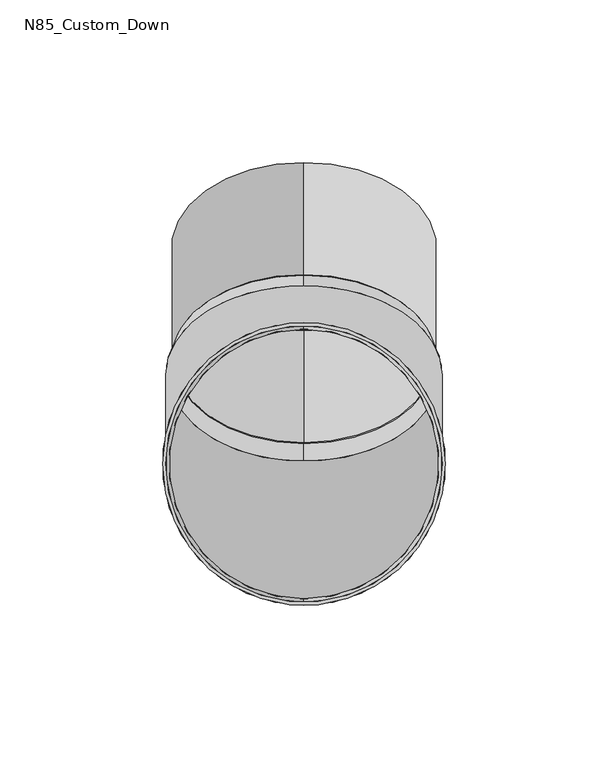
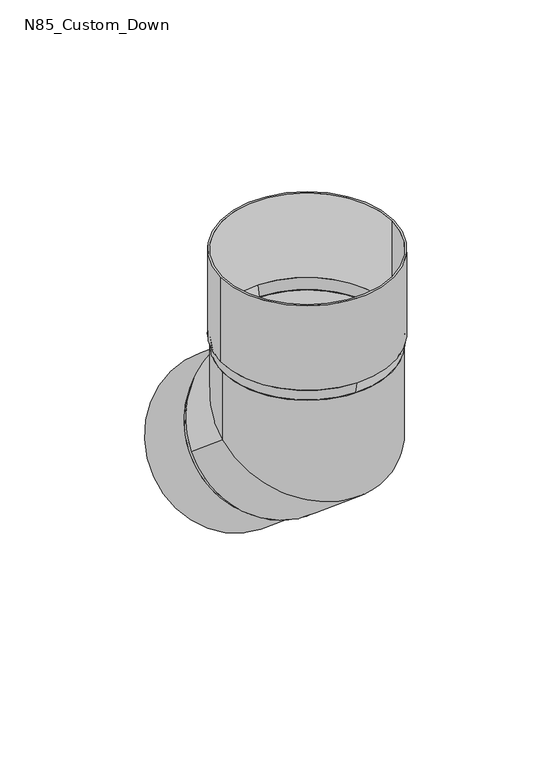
"""IFC4 building model written with IfcOpenShell, lengths in millimetres: proxy geometry, GROVIK_Downpipe_Knee : N85_Custom_Down."""

from ifc_helpers import new_model, si_unit, point, frame, origin, origin_with_axes, origin_2d, place, context, project, spatial, polyline, circle_curve, ellipse_curve, trimmed, segment, composite_curve, outline, extrude, source, transform, mapped, element, save
from ifc_brep_helpers import plane_surface, cylinder_surface, revolved_surface, advanced_brep


def n85_custom_down_757c828a(model_context):
    return source(origin(), model_context, "Body", "SolidModel", [
        extrude(outline(composite_curve([segment(trimmed(circle_curve(origin_2d(), 43.5), [point((-43.5, 0.0))], [point((43.5, 0.0))], False, "CARTESIAN"), True, "CONTINUOUS"), segment(trimmed(circle_curve(origin_2d(), 43.5), [point((43.5, 0.0))], [point((-43.5, 0.0))], False, "CARTESIAN"), True, "CONTINUOUS")], self_intersect=False), holes=[composite_curve([segment(trimmed(circle_curve(origin_2d(), 42.5), [point((-42.5, 0.0))], [point((42.5, 0.0))], True, "CARTESIAN"), True, "CONTINUOUS"), segment(trimmed(circle_curve(origin_2d(), 42.5), [point((42.5, 0.0))], [point((-42.5, 0.0))], True, "CARTESIAN"), True, "CONTINUOUS")], self_intersect=False)]), frame((0.0, 0.0, 6.0), z_axis=(0.0, 0.0, 1.0), x_axis=(1.0, 0.0, 0.0)), (0.0, 0.0, 1.0), 45.0),
        advanced_brep(
        [(-42.5, 0.0, 0.0), (42.5, 0.0, 0.0), (-41.5, 0.0, 0.0), (41.5, 0.0, 0.0), (-41.5, 0.0, -35.9), (41.5, 0.0, -35.9), (-42.5, 0.0, -35.9), (42.5, 0.0, -35.9), (-42.5, 27.5009955, -58.9760752), (42.5, 27.5009955, -58.9760752), (-41.5, 27.5009955, -58.9760752), (41.5, 27.5009955, -58.9760752)],
        [
            (0, 1, circle_curve(origin_with_axes(), 42.5)),
            (1, 0, circle_curve(origin_with_axes(), 42.5)),
            (2, 3, circle_curve(frame((0.0, 0.0, 0.0), z_axis=(0.0, 0.0, -1.0), x_axis=(1.0, 0.0, 0.0)), 41.5)),
            (3, 2, circle_curve(frame((0.0, 0.0, 0.0), z_axis=(0.0, 0.0, -1.0), x_axis=(1.0, 0.0, 0.0)), 41.5)),
            (2, 4),
            (4, 5, ellipse_curve(frame((0.0, 0.0, -35.9), z_axis=(0.0, 0.42261826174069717, -0.906307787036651), x_axis=(0.0, -0.906307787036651, -0.42261826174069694)), 45.7901836, 41.5)),
            (5, 3),
            (5, 4, ellipse_curve(frame((0.0, 0.0, -35.9), z_axis=(0.0, 0.42261826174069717, -0.906307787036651), x_axis=(0.0, -0.906307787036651, -0.42261826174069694)), 45.7901836, 41.5)),
            (0, 6),
            (6, 7, ellipse_curve(frame((0.0, 0.0, -35.9), z_axis=(0.0, -0.42261826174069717, 0.906307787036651), x_axis=(0.0, 0.906307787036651, 0.42261826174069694)), 46.8935616, 42.5)),
            (7, 1),
            (7, 6, ellipse_curve(frame((0.0, 0.0, -35.9), z_axis=(0.0, -0.42261826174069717, 0.906307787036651), x_axis=(0.0, 0.906307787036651, 0.42261826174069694)), 46.8935616, 42.5)),
            (8, 9, circle_curve(frame((0.0, 27.5009955, -58.9760752), z_axis=(0.0, 0.7660444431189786, -0.6427876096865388), x_axis=(1.0, 0.0, 0.0)), 42.5)),
            (9, 8, circle_curve(frame((0.0, 27.5009955, -58.9760752), z_axis=(0.0, 0.7660444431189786, -0.6427876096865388), x_axis=(1.0, 0.0, 0.0)), 42.5)),
            (10, 11, circle_curve(frame((0.0, 27.5009955, -58.9760752), z_axis=(0.0, -0.7660444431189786, 0.6427876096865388), x_axis=(1.0, 0.0, 0.0)), 41.5)),
            (11, 10, circle_curve(frame((0.0, 27.5009955, -58.9760752), z_axis=(0.0, -0.7660444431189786, 0.6427876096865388), x_axis=(1.0, 0.0, 0.0)), 41.5)),
            (4, 10),
            (11, 5),
            (6, 8),
            (9, 7),
        ],
        [
            plane_surface(origin_with_axes()),
            revolved_surface(polyline([(41.5, 0.0, -55.25176779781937), (41.5, 0.0, 0.0)]), (0.0, 0.0, 0.0), (0.0, 0.0, -1.0)),
            cylinder_surface(origin_with_axes(), 42.5),
            plane_surface(frame((0.0, 27.5009955, -58.9760752), z_axis=(0.0, 0.7660444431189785, -0.6427876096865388), x_axis=(1.0, 0.0, 0.0))),
            revolved_surface(polyline([(41.5, 27.50099550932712, -58.97607518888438), (41.5, -14.824314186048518, -23.460923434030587)]), (0.0, 0.0, -35.9), (0.0, 0.7660444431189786, -0.6427876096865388)),
            cylinder_surface(frame((0.0, 0.0, -35.9), z_axis=(0.0, -0.7660444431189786, 0.6427876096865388), x_axis=(1.0, 0.0, 0.0)), 42.5),
        ],
        [
            (0, [[1, 2], [3, 4]]),
            (1, [[-3, 5, 6, 7]]),
            (1, [[-4, -7, 8, -5]]),
            (2, [[-1, 9, 10, 11]]),
            (2, [[-2, -11, 12, -9]]),
            (3, [[13, 14], [15, 16]]),
            (4, [[-6, 17, -16, 18]]),
            (4, [[-8, -18, -15, -17]]),
            (5, [[-10, 19, -14, 20]]),
            (5, [[-12, -20, -13, -19]]),
        ],
    ),
        extrude(outline(composite_curve([segment(trimmed(circle_curve(origin_2d(), 40.7), [point((0.0, 40.7))], [point((0.0, -40.7))], False, "CARTESIAN"), True, "CONTINUOUS"), segment(trimmed(circle_curve(origin_2d(), 40.7), [point((0.0, -40.7))], [point((0.0, 40.7))], False, "CARTESIAN"), True, "CONTINUOUS")], self_intersect=False), holes=[composite_curve([segment(trimmed(circle_curve(origin_2d(), 39.7), [point((0.0, 39.7))], [point((0.0, -39.7))], True, "CARTESIAN"), True, "CONTINUOUS"), segment(trimmed(circle_curve(origin_2d(), 39.7), [point((0.0, -39.7))], [point((0.0, 39.7))], True, "CARTESIAN"), True, "CONTINUOUS")], self_intersect=False)]), frame((0.0, 66.5692621, -91.7582433), z_axis=(0.0, -0.7660444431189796, 0.6427876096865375), x_axis=(1.0, 0.0, 0.0)), (0.0, 0.0, 1.0), 45.0),
        advanced_brep(
        [(0.0, 43.5, 6.0), (0.0, -43.5, 6.0), (0.0, 42.5, 6.0), (0.0, -42.5, 6.0), (0.0, 42.5, 0.0), (0.0, -42.5, 0.0), (0.0, -41.5, 0.0), (0.0, 41.5, 0.0)],
        [
            (0, 1, circle_curve(frame((0.0, 0.0, 6.0), z_axis=(0.0, 0.0, 1.0), x_axis=(0.0, 1.0, 0.0)), 43.5)),
            (1, 0, circle_curve(frame((0.0, 0.0, 6.0), z_axis=(0.0, 0.0, 1.0), x_axis=(0.0, -1.0, 0.0)), 43.5)),
            (2, 3, circle_curve(frame((0.0, 0.0, 6.0), z_axis=(0.0, 0.0, -1.0), x_axis=(0.0, -1.0, 0.0)), 42.5)),
            (3, 2, circle_curve(frame((0.0, 0.0, 6.0), z_axis=(0.0, 0.0, -1.0), x_axis=(0.0, 1.0, 0.0)), 42.5)),
            (4, 5, circle_curve(frame((0.0, 0.0, 0.0), z_axis=(0.0, 0.0, -1.0), x_axis=(0.0, -1.0, 0.0)), 42.5)),
            (5, 4, circle_curve(frame((0.0, 0.0, 0.0), z_axis=(0.0, 0.0, -1.0), x_axis=(0.0, 1.0, 0.0)), 42.5)),
            (6, 7, circle_curve(frame((0.0, 0.0, 0.0), z_axis=(0.0, 0.0, 1.0), x_axis=(0.0, -1.0, 0.0)), 41.5)),
            (7, 6, circle_curve(frame((0.0, 0.0, 0.0), z_axis=(0.0, 0.0, 1.0), x_axis=(0.0, 1.0, 0.0)), 41.5)),
            (1, 5),
            (4, 0),
            (6, 3),
            (2, 7),
        ],
        [
            plane_surface(frame((0.0, 0.0, 6.0), z_axis=(0.0, 0.0, 1.0), x_axis=(-1.0, 0.0, 0.0))),
            plane_surface(frame((0.0, 0.0, 0.0), z_axis=(0.0, 0.0, -1.0), x_axis=(-1.0, 0.0, 0.0))),
            revolved_surface(polyline([(0.0, 42.5, 0.0), (0.0, 43.5, 6.0)]), (0.0, 0.0, -255.0), (0.0, 0.0, 1.0)),
            revolved_surface(polyline([(0.0, -42.5, 0.0), (0.0, -43.5, 6.0)]), (0.0, 0.0, -255.0), (0.0, 0.0, 1.0)),
            revolved_surface(polyline([(0.0, -42.5, 6.0), (0.0, -41.5, 0.0)]), (0.0, 0.0, -249.0), (0.0, 0.0, 1.0)),
        ],
        [
            (0, [[1, 2], [3, 4]]),
            (1, [[5, 6], [7, 8]]),
            (2, [[-2, 9, -5, 10]]),
            (3, [[-1, -10, -6, -9]]),
            (4, [[11, -3, 12, -7]]),
            (4, [[-11, -8, -12, -4]]),
        ],
    ),
        advanced_brep(
        [(0.0, 5.9358065, -94.0108097), (0.0, 58.2587179, -31.654792), (0.0, 6.5785941, -93.2447652), (0.0, 57.6159303, -32.4208365), (0.0, 0.1825221, -91.532964), (0.0, 54.8194689, -26.4191864), (0.0, 54.1766813, -27.1852308), (0.0, 0.8253097, -90.7669196)],
        [
            (0, 1, circle_curve(frame((0.0, 32.0972622, -62.8328008), z_axis=(0.0, 0.7660444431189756, -0.6427876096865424), x_axis=(0.0, -0.6427876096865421, -0.7660444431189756)), 40.7)),
            (1, 0, circle_curve(frame((0.0, 32.0972622, -62.8328008), z_axis=(0.0, 0.7660444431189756, -0.6427876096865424), x_axis=(0.0, 0.6427876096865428, 0.7660444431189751)), 40.7)),
            (2, 3, circle_curve(frame((0.0, 32.0972622, -62.8328008), z_axis=(0.0, -0.7660444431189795, 0.6427876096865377), x_axis=(0.0, 0.6427876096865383, 0.7660444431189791)), 39.7)),
            (3, 2, circle_curve(frame((0.0, 32.0972622, -62.8328008), z_axis=(0.0, -0.7660444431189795, 0.6427876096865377), x_axis=(0.0, -0.6427876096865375, -0.7660444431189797)), 39.7)),
            (4, 5, circle_curve(frame((0.0, 27.5009955, -58.9760752), z_axis=(0.0, -0.7660444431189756, 0.6427876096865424), x_axis=(0.0, 0.6427876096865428, 0.7660444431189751)), 42.5)),
            (5, 4, circle_curve(frame((0.0, 27.5009955, -58.9760752), z_axis=(0.0, -0.7660444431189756, 0.6427876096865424), x_axis=(0.0, -0.6427876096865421, -0.7660444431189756)), 42.5)),
            (6, 7, circle_curve(frame((0.0, 27.5009955, -58.9760752), z_axis=(0.0, 0.7660444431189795, -0.6427876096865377), x_axis=(0.0, 0.6427876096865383, 0.7660444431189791)), 41.5)),
            (7, 6, circle_curve(frame((0.0, 27.5009955, -58.9760752), z_axis=(0.0, 0.7660444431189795, -0.6427876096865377), x_axis=(0.0, -0.6427876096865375, -0.7660444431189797)), 41.5)),
            (1, 5),
            (4, 0),
            (6, 3),
            (2, 7),
        ],
        [
            plane_surface(frame((0.0, 32.0972622, -62.8328008), z_axis=(0.0, 0.7660444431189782, -0.6427876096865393), x_axis=(-1.0, 0.0, 0.0))),
            plane_surface(frame((0.0, 27.5009955, -58.9760752), z_axis=(0.0, -0.7660444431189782, 0.6427876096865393), x_axis=(-1.0, 0.0, 0.0))),
            revolved_surface(polyline([(0.0, 58.25871788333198, -31.654792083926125), (0.0, 54.8194688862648, -26.41918637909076)]), (0.0, 136.0239583, -150.0376532), (0.0, -0.7660444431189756, 0.6427876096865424)),
            revolved_surface(polyline([(0.0, 5.935806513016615, -94.01080968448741), (0.0, 0.1825220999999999, -91.532964)]), (0.0, 136.0239583, -150.0376532), (0.0, -0.7660444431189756, 0.6427876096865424)),
            revolved_surface(polyline([(0.0, 54.1766813, -27.1852308), (0.0, 57.61593029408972, -32.42083650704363)]), (0.0, 133.4704768, -147.8950279), (0.0, -0.7660444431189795, 0.6427876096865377)),
        ],
        [
            (0, [[1, 2], [3, 4]]),
            (1, [[5, 6], [7, 8]]),
            (2, [[-2, 9, -5, 10]]),
            (3, [[-1, -10, -6, -9]]),
            (4, [[11, -3, 12, -7]]),
            (4, [[-11, -8, -12, -4]]),
        ],
    ),
    ])


if __name__ == "__main__":
    model = new_model("IFC4")
    model_context = context("Model", 3, world=origin())
    ifc_project = project(units=[si_unit("LENGTHUNIT", "METRE", prefix="MILLI")], contexts=[model_context])
    site = spatial("IfcSite", under=ifc_project)
    building = spatial("IfcBuilding", under=site)
    placement = place(None, origin())
    n85_custom_down_shape = n85_custom_down_757c828a(model_context)
    element("IfcBuildingElementProxy", 1, Name="GROVIK_Downpipe_Knee : N85_Custom_Down", ObjectType="GROVIK_Downpipe_Knee : N85_Custom_Down", at=placement, inside=building, context=model_context, shape_type="MappedRepresentation", body=[
        mapped(n85_custom_down_shape, transform((0.0, 0.0, 0.0), x_axis=(1.0, 0.0, 0.0), y_axis=(0.0, 1.0, 0.0), z_axis=(0.0, 0.0, 1.0))),
    ])
    save(model, "model.ifc")
